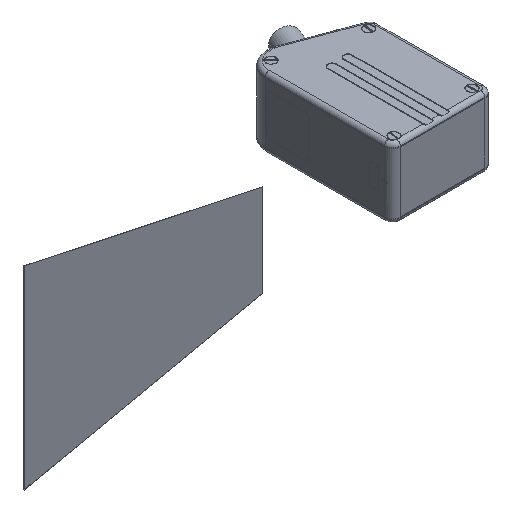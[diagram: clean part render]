
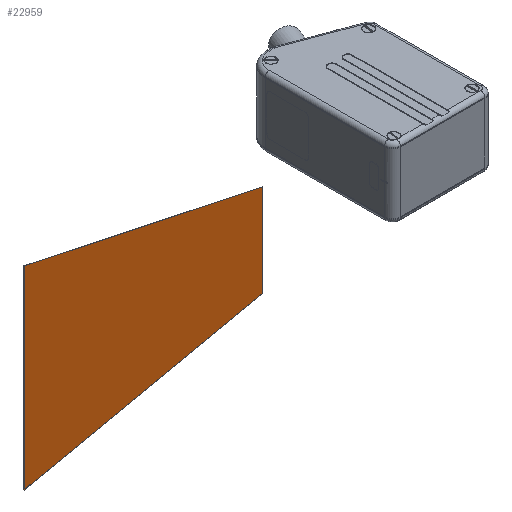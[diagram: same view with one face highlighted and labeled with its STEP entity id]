
A CAD part, isometric view. The second image highlights one B-rep face of the part: STEP entity #22959.
In plain terms, the highlighted planar face has unit normal (0, -1, 0) as drawn and (0, 0, -1) by its records, which use the part's own axes.
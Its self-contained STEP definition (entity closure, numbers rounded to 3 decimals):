
#3209 = CARTESIAN_POINT ( 'NONE',  ( 61., 148.426, 0. ) ) ;
#4956 = CARTESIAN_POINT ( 'NONE',  ( 29., -1.574, 0. ) ) ;
#5868 = VERTEX_POINT ( 'NONE', #11075 ) ;
#6505 = ORIENTED_EDGE ( 'NONE', *, *, #30775, .F. ) ;
#6708 = EDGE_CURVE ( 'NONE', #31126, #22564, #17688, .T. ) ;
#7831 = DIRECTION ( 'NONE',  ( 1., 0., 0. ) ) ;
#8731 = ORIENTED_EDGE ( 'NONE', *, *, #28437, .F. ) ;
#8745 = FACE_OUTER_BOUND ( 'NONE', #8952, .T. ) ;
#8952 = EDGE_LOOP ( 'NONE', ( #20324, #21656, #6505, #8731 ) ) ;
#9076 = VECTOR ( 'NONE', #29650, 1000. ) ;
#11075 = CARTESIAN_POINT ( 'NONE',  ( 29., -1.574, 0. ) ) ;
#14410 = PLANE ( 'NONE',  #26474 ) ;
#15268 = VERTEX_POINT ( 'NONE', #3209 ) ;
#16056 = VECTOR ( 'NONE', #7831, 1000. ) ;
#16613 = DIRECTION ( 'NONE',  ( 0.209, -0.978, 0. ) ) ;
#16810 = VECTOR ( 'NONE', #33869, 1000. ) ;
#17583 = EDGE_CURVE ( 'NONE', #15268, #31126, #27553, .T. ) ;
#17688 = LINE ( 'NONE', #32931, #28802 ) ;
#17767 = LINE ( 'NONE', #4956, #16056 ) ;
#18291 = CARTESIAN_POINT ( 'NONE',  ( -29., -1.574, 0. ) ) ;
#18452 = LINE ( 'NONE', #24403, #9076 ) ;
#20324 = ORIENTED_EDGE ( 'NONE', *, *, #6708, .F. ) ;
#21382 = CARTESIAN_POINT ( 'NONE',  ( -61., 148.426, 0. ) ) ;
#21656 = ORIENTED_EDGE ( 'NONE', *, *, #17583, .F. ) ;
#22564 = VERTEX_POINT ( 'NONE', #18291 ) ;
#22959 = ADVANCED_FACE ( 'NONE', ( #8745 ), #14410, .T. ) ;
#24403 = CARTESIAN_POINT ( 'NONE',  ( 61., 148.426, 0. ) ) ;
#25663 = DIRECTION ( 'NONE',  ( 0., 0., -1. ) ) ;
#26474 = AXIS2_PLACEMENT_3D ( 'NONE', #30890, #25663, #33640 ) ;
#27553 = LINE ( 'NONE', #31129, #16810 ) ;
#28437 = EDGE_CURVE ( 'NONE', #22564, #5868, #17767, .T. ) ;
#28802 = VECTOR ( 'NONE', #16613, 1000. ) ;
#29650 = DIRECTION ( 'NONE',  ( 0.209, 0.978, 0. ) ) ;
#30775 = EDGE_CURVE ( 'NONE', #5868, #15268, #18452, .T. ) ;
#30890 = CARTESIAN_POINT ( 'NONE',  ( 0., 0., 0. ) ) ;
#31126 = VERTEX_POINT ( 'NONE', #21382 ) ;
#31129 = CARTESIAN_POINT ( 'NONE',  ( -61., 148.426, 0. ) ) ;
#32931 = CARTESIAN_POINT ( 'NONE',  ( -29., -1.574, 0. ) ) ;
#33640 = DIRECTION ( 'NONE',  ( -1., 0., 0. ) ) ;
#33869 = DIRECTION ( 'NONE',  ( -1., 0., 0. ) ) ;
